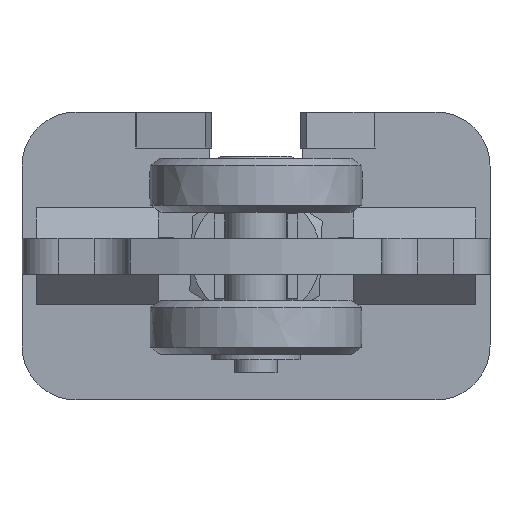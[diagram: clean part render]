
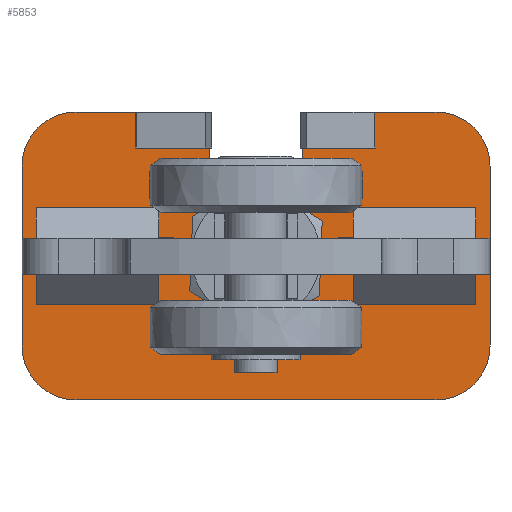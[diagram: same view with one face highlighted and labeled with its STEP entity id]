
A CAD part, front view. The second image highlights one B-rep face of the part: STEP entity #5853.
In plain terms, the highlighted planar face has unit normal (0, -1, 0) as drawn and (0, 0, 1) by its records, which use the part's own axes.
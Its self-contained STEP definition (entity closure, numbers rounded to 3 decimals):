
#208=FACE_BOUND('',#1163,.T.);
#209=FACE_BOUND('',#1164,.T.);
#307=CIRCLE('',#6238,15.);
#308=CIRCLE('',#6239,15.);
#309=CIRCLE('',#6240,15.);
#310=CIRCLE('',#6241,15.);
#311=CIRCLE('',#6242,13.);
#822=FACE_OUTER_BOUND('',#1162,.T.);
#1162=EDGE_LOOP('',(#4222,#4223,#4224,#4225,#4226,#4227,#4228,#4229,#4230,
#4231,#4232,#4233,#4234,#4235,#4236,#4237,#4238,#4239,#4240,#4241));
#1163=EDGE_LOOP('',(#4242,#4243,#4244,#4245));
#1164=EDGE_LOOP('',(#4246,#4247,#4248,#4249));
#1631=LINE('',#8934,#2109);
#1643=LINE('',#8958,#2121);
#1647=LINE('',#8966,#2125);
#1649=LINE('',#8970,#2127);
#1652=LINE('',#8976,#2130);
#1653=LINE('',#8980,#2131);
#1654=LINE('',#8984,#2132);
#1655=LINE('',#8988,#2133);
#1656=LINE('',#8992,#2134);
#1657=LINE('',#8994,#2135);
#1658=LINE('',#8996,#2136);
#1659=LINE('',#8998,#2137);
#1660=LINE('',#9000,#2138);
#1661=LINE('',#9002,#2139);
#1662=LINE('',#9005,#2140);
#1663=LINE('',#9008,#2141);
#1664=LINE('',#9010,#2142);
#1665=LINE('',#9012,#2143);
#1666=LINE('',#9013,#2144);
#1667=LINE('',#9016,#2145);
#1668=LINE('',#9018,#2146);
#1669=LINE('',#9020,#2147);
#1670=LINE('',#9021,#2148);
#2109=VECTOR('',#7105,10.);
#2121=VECTOR('',#7131,0.1);
#2125=VECTOR('',#7137,0.1);
#2127=VECTOR('',#7141,20.571);
#2130=VECTOR('',#7146,16.529);
#2131=VECTOR('',#7149,50.);
#2132=VECTOR('',#7152,100.);
#2133=VECTOR('',#7155,50.);
#2134=VECTOR('',#7158,17.);
#2135=VECTOR('',#7159,10.);
#2136=VECTOR('',#7160,0.1);
#2137=VECTOR('',#7161,0.1);
#2138=VECTOR('',#7162,20.1);
#2139=VECTOR('',#7163,35.9);
#2140=VECTOR('',#7166,35.9);
#2141=VECTOR('',#7167,10.2);
#2142=VECTOR('',#7168,30.4);
#2143=VECTOR('',#7169,10.2);
#2144=VECTOR('',#7170,30.4);
#2145=VECTOR('',#7171,10.2);
#2146=VECTOR('',#7172,30.4);
#2147=VECTOR('',#7173,10.2);
#2148=VECTOR('',#7174,30.4);
#2558=VERTEX_POINT('',#8921);
#2561=VERTEX_POINT('',#8928);
#2567=VERTEX_POINT('',#8957);
#2570=VERTEX_POINT('',#8965);
#2571=VERTEX_POINT('',#8969);
#2573=VERTEX_POINT('',#8975);
#2574=VERTEX_POINT('',#8977);
#2575=VERTEX_POINT('',#8979);
#2576=VERTEX_POINT('',#8981);
#2577=VERTEX_POINT('',#8983);
#2578=VERTEX_POINT('',#8985);
#2579=VERTEX_POINT('',#8987);
#2580=VERTEX_POINT('',#8989);
#2581=VERTEX_POINT('',#8991);
#2582=VERTEX_POINT('',#8993);
#2583=VERTEX_POINT('',#8995);
#2584=VERTEX_POINT('',#8997);
#2585=VERTEX_POINT('',#8999);
#2586=VERTEX_POINT('',#9001);
#2587=VERTEX_POINT('',#9003);
#2588=VERTEX_POINT('',#9006);
#2589=VERTEX_POINT('',#9007);
#2590=VERTEX_POINT('',#9009);
#2591=VERTEX_POINT('',#9011);
#2592=VERTEX_POINT('',#9014);
#2593=VERTEX_POINT('',#9015);
#2594=VERTEX_POINT('',#9017);
#2595=VERTEX_POINT('',#9019);
#3190=EDGE_CURVE('',#2558,#2561,#1631,.T.);
#3202=EDGE_CURVE('',#2567,#2558,#1643,.T.);
#3206=EDGE_CURVE('',#2570,#2567,#1647,.T.);
#3208=EDGE_CURVE('',#2570,#2571,#1649,.T.);
#3211=EDGE_CURVE('',#2573,#2561,#1652,.T.);
#3212=EDGE_CURVE('',#2574,#2573,#307,.T.);
#3213=EDGE_CURVE('',#2575,#2574,#1653,.T.);
#3214=EDGE_CURVE('',#2576,#2575,#308,.T.);
#3215=EDGE_CURVE('',#2577,#2576,#1654,.T.);
#3216=EDGE_CURVE('',#2578,#2577,#309,.T.);
#3217=EDGE_CURVE('',#2579,#2578,#1655,.T.);
#3218=EDGE_CURVE('',#2580,#2579,#310,.T.);
#3219=EDGE_CURVE('',#2581,#2580,#1656,.T.);
#3220=EDGE_CURVE('',#2581,#2582,#1657,.T.);
#3221=EDGE_CURVE('',#2582,#2583,#1658,.T.);
#3222=EDGE_CURVE('',#2583,#2584,#1659,.T.);
#3223=EDGE_CURVE('',#2584,#2585,#1660,.T.);
#3224=EDGE_CURVE('',#2586,#2585,#1661,.T.);
#3225=EDGE_CURVE('',#2587,#2586,#311,.T.);
#3226=EDGE_CURVE('',#2571,#2587,#1662,.T.);
#3227=EDGE_CURVE('',#2588,#2589,#1663,.T.);
#3228=EDGE_CURVE('',#2589,#2590,#1664,.T.);
#3229=EDGE_CURVE('',#2590,#2591,#1665,.T.);
#3230=EDGE_CURVE('',#2591,#2588,#1666,.T.);
#3231=EDGE_CURVE('',#2592,#2593,#1667,.T.);
#3232=EDGE_CURVE('',#2593,#2594,#1668,.T.);
#3233=EDGE_CURVE('',#2594,#2595,#1669,.T.);
#3234=EDGE_CURVE('',#2595,#2592,#1670,.T.);
#4222=ORIENTED_EDGE('',*,*,#3208,.F.);
#4223=ORIENTED_EDGE('',*,*,#3206,.T.);
#4224=ORIENTED_EDGE('',*,*,#3202,.T.);
#4225=ORIENTED_EDGE('',*,*,#3190,.T.);
#4226=ORIENTED_EDGE('',*,*,#3211,.F.);
#4227=ORIENTED_EDGE('',*,*,#3212,.F.);
#4228=ORIENTED_EDGE('',*,*,#3213,.F.);
#4229=ORIENTED_EDGE('',*,*,#3214,.F.);
#4230=ORIENTED_EDGE('',*,*,#3215,.F.);
#4231=ORIENTED_EDGE('',*,*,#3216,.F.);
#4232=ORIENTED_EDGE('',*,*,#3217,.F.);
#4233=ORIENTED_EDGE('',*,*,#3218,.F.);
#4234=ORIENTED_EDGE('',*,*,#3219,.F.);
#4235=ORIENTED_EDGE('',*,*,#3220,.T.);
#4236=ORIENTED_EDGE('',*,*,#3221,.T.);
#4237=ORIENTED_EDGE('',*,*,#3222,.T.);
#4238=ORIENTED_EDGE('',*,*,#3223,.T.);
#4239=ORIENTED_EDGE('',*,*,#3224,.F.);
#4240=ORIENTED_EDGE('',*,*,#3225,.F.);
#4241=ORIENTED_EDGE('',*,*,#3226,.F.);
#4242=ORIENTED_EDGE('',*,*,#3227,.T.);
#4243=ORIENTED_EDGE('',*,*,#3228,.T.);
#4244=ORIENTED_EDGE('',*,*,#3229,.T.);
#4245=ORIENTED_EDGE('',*,*,#3230,.T.);
#4246=ORIENTED_EDGE('',*,*,#3231,.T.);
#4247=ORIENTED_EDGE('',*,*,#3232,.T.);
#4248=ORIENTED_EDGE('',*,*,#3233,.T.);
#4249=ORIENTED_EDGE('',*,*,#3234,.T.);
#5664=PLANE('',#6237);
#5853=ADVANCED_FACE('',(#822,#208,#209),#5664,.T.);
#6237=AXIS2_PLACEMENT_3D('',#8974,#7144,#7145);
#6238=AXIS2_PLACEMENT_3D('',#8978,#7147,#7148);
#6239=AXIS2_PLACEMENT_3D('',#8982,#7150,#7151);
#6240=AXIS2_PLACEMENT_3D('',#8986,#7153,#7154);
#6241=AXIS2_PLACEMENT_3D('',#8990,#7156,#7157);
#6242=AXIS2_PLACEMENT_3D('',#9004,#7164,#7165);
#7105=DIRECTION('',(0.,-1.,0.));
#7131=DIRECTION('',(-1.,0.,0.));
#7137=DIRECTION('',(0.,-1.,0.));
#7141=DIRECTION('',(-1.,0.,0.));
#7144=DIRECTION('center_axis',(0.,0.,1.));
#7145=DIRECTION('ref_axis',(1.,0.,0.));
#7146=DIRECTION('',(-1.,0.,0.));
#7147=DIRECTION('center_axis',(0.,0.,-1.));
#7148=DIRECTION('ref_axis',(0.,-1.,0.));
#7149=DIRECTION('',(0.,-1.,0.));
#7150=DIRECTION('center_axis',(0.,0.,-1.));
#7151=DIRECTION('ref_axis',(1.,0.,0.));
#7152=DIRECTION('',(1.,0.,0.));
#7153=DIRECTION('center_axis',(0.,0.,-1.));
#7154=DIRECTION('ref_axis',(0.,1.,0.));
#7155=DIRECTION('',(0.,1.,0.));
#7156=DIRECTION('center_axis',(0.,0.,-1.));
#7157=DIRECTION('ref_axis',(-1.,0.,0.));
#7158=DIRECTION('',(-1.,0.,0.));
#7159=DIRECTION('',(0.,1.,0.));
#7160=DIRECTION('',(-1.,0.,0.));
#7161=DIRECTION('',(0.,1.,0.));
#7162=DIRECTION('',(1.,0.,0.));
#7163=DIRECTION('',(0.,-1.,0.));
#7164=DIRECTION('center_axis',(0.,0.,1.));
#7165=DIRECTION('ref_axis',(-1.,0.,0.));
#7166=DIRECTION('',(0.,1.,0.));
#7167=DIRECTION('',(0.,-1.,0.));
#7168=DIRECTION('',(-1.,0.,0.));
#7169=DIRECTION('',(0.,1.,0.));
#7170=DIRECTION('',(1.,0.,0.));
#7171=DIRECTION('',(0.,-1.,0.));
#7172=DIRECTION('',(-1.,0.,0.));
#7173=DIRECTION('',(0.,1.,0.));
#7174=DIRECTION('',(1.,0.,0.));
#8921=CARTESIAN_POINT('',(33.471,-30.,10.));
#8928=CARTESIAN_POINT('',(33.471,-40.,10.));
#8934=CARTESIAN_POINT('',(33.471,-22.039,10.));
#8957=CARTESIAN_POINT('',(33.571,-30.,10.));
#8958=CARTESIAN_POINT('',(16.214,-30.,10.));
#8965=CARTESIAN_POINT('',(33.571,-29.9,10.));
#8966=CARTESIAN_POINT('',(33.571,-17.039,10.));
#8969=CARTESIAN_POINT('',(13.,-29.9,10.));
#8970=CARTESIAN_POINT('',(13.,-29.9,10.));
#8974=CARTESIAN_POINT('Origin',(0.,-4.079,
10.));
#8975=CARTESIAN_POINT('',(50.,-40.,10.));
#8976=CARTESIAN_POINT('',(-50.,-40.,10.));
#8977=CARTESIAN_POINT('',(65.,-25.,10.));
#8978=CARTESIAN_POINT('Origin',(50.,-25.,10.));
#8979=CARTESIAN_POINT('',(65.,25.,10.));
#8980=CARTESIAN_POINT('',(65.,-25.,10.));
#8981=CARTESIAN_POINT('',(50.,40.,10.));
#8982=CARTESIAN_POINT('Origin',(50.,25.,10.));
#8983=CARTESIAN_POINT('',(-50.,40.,10.));
#8984=CARTESIAN_POINT('',(50.,40.,10.));
#8985=CARTESIAN_POINT('',(-65.,25.,10.));
#8986=CARTESIAN_POINT('Origin',(-50.,25.,10.));
#8987=CARTESIAN_POINT('',(-65.,-25.,10.));
#8988=CARTESIAN_POINT('',(-65.,25.,10.));
#8989=CARTESIAN_POINT('',(-50.,-40.,10.));
#8990=CARTESIAN_POINT('Origin',(-50.,-25.,10.));
#8991=CARTESIAN_POINT('',(-33.,-40.,10.));
#8992=CARTESIAN_POINT('',(-50.,-40.,10.));
#8993=CARTESIAN_POINT('',(-33.,-30.,10.));
#8994=CARTESIAN_POINT('',(-33.,-17.039,10.));
#8995=CARTESIAN_POINT('',(-33.1,-30.,10.));
#8996=CARTESIAN_POINT('',(-16.55,-30.,10.));
#8997=CARTESIAN_POINT('',(-33.1,-29.9,10.));
#8998=CARTESIAN_POINT('',(-33.1,-16.989,10.));
#8999=CARTESIAN_POINT('',(-13.,-29.9,10.));
#9000=CARTESIAN_POINT('',(-15.979,-29.9,10.));
#9001=CARTESIAN_POINT('',(-13.,6.,10.));
#9002=CARTESIAN_POINT('',(-13.,-29.9,10.));
#9003=CARTESIAN_POINT('',(13.,6.,10.));
#9004=CARTESIAN_POINT('Origin',(0.,6.,
10.));
#9005=CARTESIAN_POINT('',(13.,6.,10.));
#9006=CARTESIAN_POINT('',(-22.8,5.1,10.));
#9007=CARTESIAN_POINT('',(-22.8,-5.1,10.));
#9008=CARTESIAN_POINT('',(-22.8,0.511,10.));
#9009=CARTESIAN_POINT('',(-53.2,-5.1,10.));
#9010=CARTESIAN_POINT('',(-11.4,-5.1,10.));
#9011=CARTESIAN_POINT('',(-53.2,5.1,10.));
#9012=CARTESIAN_POINT('',(-53.2,-4.589,10.));
#9013=CARTESIAN_POINT('',(-26.6,5.1,10.));
#9014=CARTESIAN_POINT('',(53.2,5.1,10.));
#9015=CARTESIAN_POINT('',(53.2,-5.1,10.));
#9016=CARTESIAN_POINT('',(53.2,0.511,10.));
#9017=CARTESIAN_POINT('',(22.8,-5.1,10.));
#9018=CARTESIAN_POINT('',(26.6,-5.1,10.));
#9019=CARTESIAN_POINT('',(22.8,5.1,10.));
#9020=CARTESIAN_POINT('',(22.8,-4.589,10.));
#9021=CARTESIAN_POINT('',(11.4,5.1,10.));
